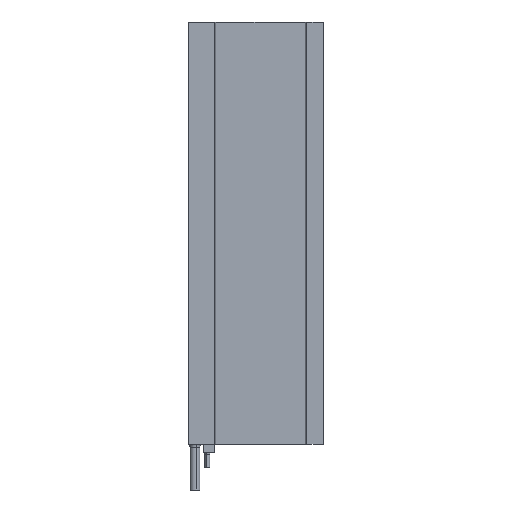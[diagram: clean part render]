
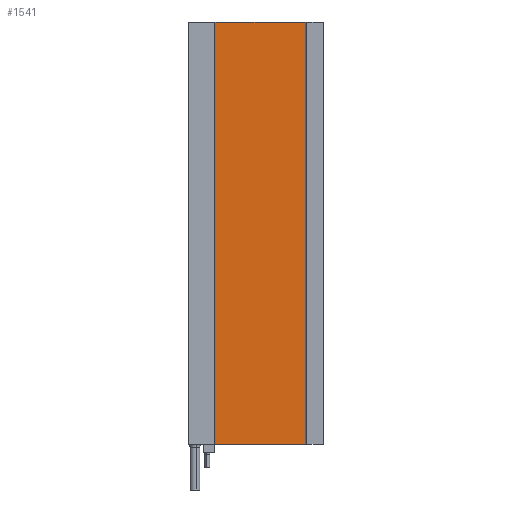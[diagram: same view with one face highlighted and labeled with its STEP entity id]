
A CAD part, left-side view. The second image highlights one B-rep face of the part: STEP entity #1541.
In plain terms, the highlighted planar face has unit normal (-1, 0, 0).
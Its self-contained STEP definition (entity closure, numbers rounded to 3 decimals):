
#42 = EDGE_CURVE ( 'NONE', #3180, #4776, #1429, .T. ) ;
#470 = CARTESIAN_POINT ( 'NONE',  ( 66.6, 300.204, 280.517 ) ) ;
#841 = DIRECTION ( 'NONE',  ( 0., -1., 0. ) ) ;
#1003 = AXIS2_PLACEMENT_3D ( 'NONE', #4011, #6459, #4678 ) ;
#1206 = LINE ( 'NONE', #5501, #3628 ) ;
#1352 = VECTOR ( 'NONE', #6518, 1000. ) ;
#1429 = LINE ( 'NONE', #4973, #7323 ) ;
#1541 = ADVANCED_FACE ( 'NONE', ( #7092 ), #6004, .F. ) ;
#1642 = ORIENTED_EDGE ( 'NONE', *, *, #2012, .F. ) ;
#1945 = EDGE_CURVE ( 'NONE', #3180, #3662, #3132, .T. ) ;
#2012 = EDGE_CURVE ( 'NONE', #5153, #4776, #1206, .T. ) ;
#2305 = EDGE_LOOP ( 'NONE', ( #5109, #1642, #6478, #7250 ) ) ;
#2310 = LINE ( 'NONE', #6036, #1352 ) ;
#3132 = LINE ( 'NONE', #4778, #4012 ) ;
#3180 = VERTEX_POINT ( 'NONE', #470 ) ;
#3628 = VECTOR ( 'NONE', #7282, 1000. ) ;
#3662 = VERTEX_POINT ( 'NONE', #6652 ) ;
#4011 = CARTESIAN_POINT ( 'NONE',  ( 66.6, 298.704, 605.517 ) ) ;
#4012 = VECTOR ( 'NONE', #7220, 1000. ) ;
#4678 = DIRECTION ( 'NONE',  ( 0., 0., -1. ) ) ;
#4776 = VERTEX_POINT ( 'NONE', #4902 ) ;
#4778 = CARTESIAN_POINT ( 'NONE',  ( 66.6, 300.204, 280.517 ) ) ;
#4902 = CARTESIAN_POINT ( 'NONE',  ( 66.6, 231.204, 280.517 ) ) ;
#4973 = CARTESIAN_POINT ( 'NONE',  ( 66.6, 298.704, 280.517 ) ) ;
#5109 = ORIENTED_EDGE ( 'NONE', *, *, #42, .T. ) ;
#5153 = VERTEX_POINT ( 'NONE', #6488 ) ;
#5501 = CARTESIAN_POINT ( 'NONE',  ( 66.6, 231.204, 605.517 ) ) ;
#6004 = PLANE ( 'NONE',  #1003 ) ;
#6036 = CARTESIAN_POINT ( 'NONE',  ( 66.6, 298.704, 605.517 ) ) ;
#6459 = DIRECTION ( 'NONE',  ( 1., 0., 0. ) ) ;
#6478 = ORIENTED_EDGE ( 'NONE', *, *, #7393, .F. ) ;
#6488 = CARTESIAN_POINT ( 'NONE',  ( 66.6, 231.204, 605.517 ) ) ;
#6518 = DIRECTION ( 'NONE',  ( 0., -1., 0. ) ) ;
#6652 = CARTESIAN_POINT ( 'NONE',  ( 66.6, 300.204, 605.517 ) ) ;
#7092 = FACE_OUTER_BOUND ( 'NONE', #2305, .T. ) ;
#7220 = DIRECTION ( 'NONE',  ( 0., 0., 1. ) ) ;
#7250 = ORIENTED_EDGE ( 'NONE', *, *, #1945, .F. ) ;
#7282 = DIRECTION ( 'NONE',  ( 0., 0., -1. ) ) ;
#7323 = VECTOR ( 'NONE', #841, 1000. ) ;
#7393 = EDGE_CURVE ( 'NONE', #3662, #5153, #2310, .T. ) ;
